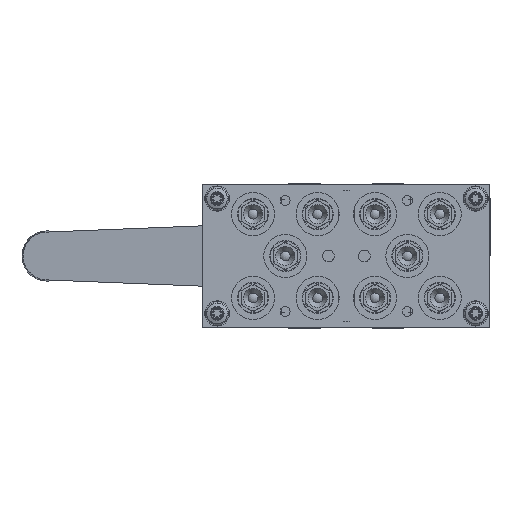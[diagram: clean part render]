
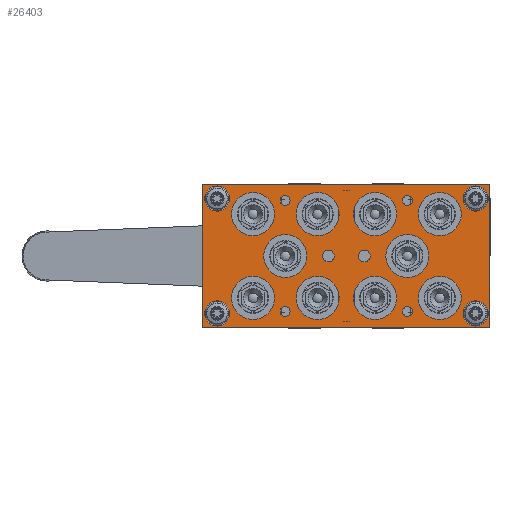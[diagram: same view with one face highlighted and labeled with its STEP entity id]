
A CAD part, left-side view. The second image highlights one B-rep face of the part: STEP entity #26403.
In plain terms, the highlighted planar face has unit normal (-1, 0, 0) as drawn and (0, 0, 1) by its records, which use the part's own axes.
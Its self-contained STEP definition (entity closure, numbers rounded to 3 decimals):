
#2514=LINE('',#63256,#3563);
#2518=LINE('',#63267,#3567);
#2522=LINE('',#63412,#3571);
#2523=LINE('',#63413,#3572);
#3563=VECTOR('',#32757,1000.);
#3567=VECTOR('',#32765,1000.);
#3571=VECTOR('',#32925,1000.);
#3572=VECTOR('',#32926,1000.);
#3991=PLANE('',#28291);
#9129=ORIENTED_EDGE('',*,*,#11919,.F.);
#9130=ORIENTED_EDGE('',*,*,#11920,.F.);
#9131=ORIENTED_EDGE('',*,*,#11921,.F.);
#9132=ORIENTED_EDGE('',*,*,#11922,.F.);
#9133=ORIENTED_EDGE('',*,*,#11923,.F.);
#9134=ORIENTED_EDGE('',*,*,#11924,.F.);
#9135=ORIENTED_EDGE('',*,*,#11925,.T.);
#9136=ORIENTED_EDGE('',*,*,#11926,.T.);
#9137=ORIENTED_EDGE('',*,*,#11927,.T.);
#9138=ORIENTED_EDGE('',*,*,#11928,.T.);
#9139=ORIENTED_EDGE('',*,*,#11929,.T.);
#9140=ORIENTED_EDGE('',*,*,#11930,.T.);
#9141=ORIENTED_EDGE('',*,*,#11931,.T.);
#9142=ORIENTED_EDGE('',*,*,#11861,.T.);
#9143=ORIENTED_EDGE('',*,*,#11932,.T.);
#9144=ORIENTED_EDGE('',*,*,#11866,.T.);
#9145=ORIENTED_EDGE('',*,*,#11933,.T.);
#9146=ORIENTED_EDGE('',*,*,#11934,.T.);
#9147=ORIENTED_EDGE('',*,*,#11935,.T.);
#9148=ORIENTED_EDGE('',*,*,#11936,.T.);
#9149=ORIENTED_EDGE('',*,*,#11937,.T.);
#9150=ORIENTED_EDGE('',*,*,#11938,.T.);
#9151=ORIENTED_EDGE('',*,*,#11939,.T.);
#9152=ORIENTED_EDGE('',*,*,#11940,.T.);
#11861=EDGE_CURVE('',#13574,#13573,#2514,.T.);
#11866=EDGE_CURVE('',#13579,#13578,#2518,.T.);
#11919=EDGE_CURVE('',#13629,#13629,#14463,.T.);
#11920=EDGE_CURVE('',#13630,#13630,#14464,.T.);
#11921=EDGE_CURVE('',#13631,#13631,#14465,.T.);
#11922=EDGE_CURVE('',#13632,#13632,#14466,.T.);
#11923=EDGE_CURVE('',#13633,#13633,#14467,.T.);
#11924=EDGE_CURVE('',#13634,#13634,#14468,.T.);
#11925=EDGE_CURVE('',#13635,#13635,#14469,.T.);
#11926=EDGE_CURVE('',#13636,#13636,#14470,.T.);
#11927=EDGE_CURVE('',#13637,#13637,#14471,.T.);
#11928=EDGE_CURVE('',#13638,#13638,#14472,.T.);
#11929=EDGE_CURVE('',#13639,#13639,#14473,.T.);
#11930=EDGE_CURVE('',#13640,#13640,#14474,.T.);
#11931=EDGE_CURVE('',#13641,#13641,#14475,.T.);
#11932=EDGE_CURVE('',#13573,#13579,#2522,.T.);
#11933=EDGE_CURVE('',#13578,#13574,#2523,.T.);
#11934=EDGE_CURVE('',#13642,#13642,#14476,.T.);
#11935=EDGE_CURVE('',#13643,#13643,#14477,.T.);
#11936=EDGE_CURVE('',#13644,#13644,#14478,.T.);
#11937=EDGE_CURVE('',#13645,#13645,#14479,.T.);
#11938=EDGE_CURVE('',#13646,#13646,#14480,.T.);
#11939=EDGE_CURVE('',#13647,#13647,#14481,.T.);
#11940=EDGE_CURVE('',#13648,#13648,#14482,.T.);
#13573=VERTEX_POINT('',#63255);
#13574=VERTEX_POINT('',#63257);
#13578=VERTEX_POINT('',#63266);
#13579=VERTEX_POINT('',#63268);
#13629=VERTEX_POINT('',#63387);
#13630=VERTEX_POINT('',#63389);
#13631=VERTEX_POINT('',#63391);
#13632=VERTEX_POINT('',#63393);
#13633=VERTEX_POINT('',#63395);
#13634=VERTEX_POINT('',#63397);
#13635=VERTEX_POINT('',#63399);
#13636=VERTEX_POINT('',#63401);
#13637=VERTEX_POINT('',#63403);
#13638=VERTEX_POINT('',#63405);
#13639=VERTEX_POINT('',#63407);
#13640=VERTEX_POINT('',#63409);
#13641=VERTEX_POINT('',#63411);
#13642=VERTEX_POINT('',#63415);
#13643=VERTEX_POINT('',#63417);
#13644=VERTEX_POINT('',#63419);
#13645=VERTEX_POINT('',#63421);
#13646=VERTEX_POINT('',#63423);
#13647=VERTEX_POINT('',#63425);
#13648=VERTEX_POINT('',#63427);
#14463=CIRCLE('',#28292,2.067);
#14464=CIRCLE('',#28293,2.067);
#14465=CIRCLE('',#28294,2.067);
#14466=CIRCLE('',#28295,2.067);
#14467=CIRCLE('',#28296,2.459);
#14468=CIRCLE('',#28297,2.459);
#14469=CIRCLE('',#28298,9.);
#14470=CIRCLE('',#28299,9.);
#14471=CIRCLE('',#28300,9.);
#14472=CIRCLE('',#28301,9.);
#14473=CIRCLE('',#28302,9.);
#14474=CIRCLE('',#28303,5.25);
#14475=CIRCLE('',#28304,5.25);
#14476=CIRCLE('',#28305,5.25);
#14477=CIRCLE('',#28306,9.);
#14478=CIRCLE('',#28307,9.);
#14479=CIRCLE('',#28308,9.);
#14480=CIRCLE('',#28309,9.);
#14481=CIRCLE('',#28310,9.);
#14482=CIRCLE('',#28311,5.25);
#15879=EDGE_LOOP('',(#9129));
#15880=EDGE_LOOP('',(#9130));
#15881=EDGE_LOOP('',(#9131));
#15882=EDGE_LOOP('',(#9132));
#15883=EDGE_LOOP('',(#9133));
#15884=EDGE_LOOP('',(#9134));
#15885=EDGE_LOOP('',(#9135));
#15886=EDGE_LOOP('',(#9136));
#15887=EDGE_LOOP('',(#9137));
#15888=EDGE_LOOP('',(#9138));
#15889=EDGE_LOOP('',(#9139));
#15890=EDGE_LOOP('',(#9140));
#15891=EDGE_LOOP('',(#9141));
#15892=EDGE_LOOP('',(#9142,#9143,#9144,#9145));
#15893=EDGE_LOOP('',(#9146));
#15894=EDGE_LOOP('',(#9147));
#15895=EDGE_LOOP('',(#9148));
#15896=EDGE_LOOP('',(#9149));
#15897=EDGE_LOOP('',(#9150));
#15898=EDGE_LOOP('',(#9151));
#15899=EDGE_LOOP('',(#9152));
#17398=FACE_BOUND('',#15879,.T.);
#17399=FACE_BOUND('',#15880,.T.);
#17400=FACE_BOUND('',#15881,.T.);
#17401=FACE_BOUND('',#15882,.T.);
#17402=FACE_BOUND('',#15883,.T.);
#17403=FACE_BOUND('',#15884,.T.);
#17404=FACE_BOUND('',#15885,.T.);
#17405=FACE_BOUND('',#15886,.T.);
#17406=FACE_BOUND('',#15887,.T.);
#17407=FACE_BOUND('',#15888,.T.);
#17408=FACE_BOUND('',#15889,.T.);
#17409=FACE_BOUND('',#15890,.T.);
#17410=FACE_BOUND('',#15891,.T.);
#17411=FACE_BOUND('',#15892,.T.);
#17412=FACE_BOUND('',#15893,.T.);
#17413=FACE_BOUND('',#15894,.T.);
#17414=FACE_BOUND('',#15895,.T.);
#17415=FACE_BOUND('',#15896,.T.);
#17416=FACE_BOUND('',#15897,.T.);
#17417=FACE_BOUND('',#15898,.T.);
#17418=FACE_BOUND('',#15899,.T.);
#26403=ADVANCED_FACE('',(#17398,#17399,#17400,#17401,#17402,#17403,#17404,
#17405,#17406,#17407,#17408,#17409,#17410,#17411,#17412,#17413,#17414,#17415,
#17416,#17417,#17418),#3991,.T.);
#28291=AXIS2_PLACEMENT_3D('',#63385,#32897,#32898);
#28292=AXIS2_PLACEMENT_3D('',#63386,#32899,#32900);
#28293=AXIS2_PLACEMENT_3D('',#63388,#32901,#32902);
#28294=AXIS2_PLACEMENT_3D('',#63390,#32903,#32904);
#28295=AXIS2_PLACEMENT_3D('',#63392,#32905,#32906);
#28296=AXIS2_PLACEMENT_3D('',#63394,#32907,#32908);
#28297=AXIS2_PLACEMENT_3D('',#63396,#32909,#32910);
#28298=AXIS2_PLACEMENT_3D('',#63398,#32911,#32912);
#28299=AXIS2_PLACEMENT_3D('',#63400,#32913,#32914);
#28300=AXIS2_PLACEMENT_3D('',#63402,#32915,#32916);
#28301=AXIS2_PLACEMENT_3D('',#63404,#32917,#32918);
#28302=AXIS2_PLACEMENT_3D('',#63406,#32919,#32920);
#28303=AXIS2_PLACEMENT_3D('',#63408,#32921,#32922);
#28304=AXIS2_PLACEMENT_3D('',#63410,#32923,#32924);
#28305=AXIS2_PLACEMENT_3D('',#63414,#32927,#32928);
#28306=AXIS2_PLACEMENT_3D('',#63416,#32929,#32930);
#28307=AXIS2_PLACEMENT_3D('',#63418,#32931,#32932);
#28308=AXIS2_PLACEMENT_3D('',#63420,#32933,#32934);
#28309=AXIS2_PLACEMENT_3D('',#63422,#32935,#32936);
#28310=AXIS2_PLACEMENT_3D('',#63424,#32937,#32938);
#28311=AXIS2_PLACEMENT_3D('',#63426,#32939,#32940);
#32757=DIRECTION('',(-1.,0.,0.));
#32765=DIRECTION('',(1.,0.,0.));
#32897=DIRECTION('',(0.,0.,1.));
#32898=DIRECTION('',(1.,0.,0.));
#32899=DIRECTION('',(0.,0.,1.));
#32900=DIRECTION('',(1.,0.,0.));
#32901=DIRECTION('',(0.,0.,1.));
#32902=DIRECTION('',(1.,0.,0.));
#32903=DIRECTION('',(0.,0.,1.));
#32904=DIRECTION('',(1.,0.,0.));
#32905=DIRECTION('',(0.,0.,1.));
#32906=DIRECTION('',(1.,0.,0.));
#32907=DIRECTION('',(0.,0.,1.));
#32908=DIRECTION('',(1.,0.,0.));
#32909=DIRECTION('',(0.,0.,1.));
#32910=DIRECTION('',(1.,0.,0.));
#32911=DIRECTION('',(0.,0.,-1.));
#32912=DIRECTION('',(1.,0.,0.));
#32913=DIRECTION('',(0.,0.,-1.));
#32914=DIRECTION('',(1.,0.,0.));
#32915=DIRECTION('',(0.,0.,-1.));
#32916=DIRECTION('',(1.,0.,0.));
#32917=DIRECTION('',(0.,0.,-1.));
#32918=DIRECTION('',(1.,0.,0.));
#32919=DIRECTION('',(0.,0.,-1.));
#32920=DIRECTION('',(1.,0.,0.));
#32921=DIRECTION('',(0.,0.,-1.));
#32922=DIRECTION('',(1.,0.,0.));
#32923=DIRECTION('',(0.,0.,-1.));
#32924=DIRECTION('',(1.,0.,0.));
#32925=DIRECTION('',(0.,-1.,0.));
#32926=DIRECTION('',(0.,1.,0.));
#32927=DIRECTION('',(0.,0.,-1.));
#32928=DIRECTION('',(1.,0.,0.));
#32929=DIRECTION('',(0.,0.,-1.));
#32930=DIRECTION('',(1.,0.,0.));
#32931=DIRECTION('',(0.,0.,-1.));
#32932=DIRECTION('',(1.,0.,0.));
#32933=DIRECTION('',(0.,0.,-1.));
#32934=DIRECTION('',(1.,0.,0.));
#32935=DIRECTION('',(0.,0.,-1.));
#32936=DIRECTION('',(1.,0.,0.));
#32937=DIRECTION('',(0.,0.,-1.));
#32938=DIRECTION('',(1.,0.,0.));
#32939=DIRECTION('',(0.,0.,-1.));
#32940=DIRECTION('',(1.,0.,0.));
#63255=CARTESIAN_POINT('',(-60.,30.,15.));
#63256=CARTESIAN_POINT('',(60.,30.,15.));
#63257=CARTESIAN_POINT('',(60.,30.,15.));
#63266=CARTESIAN_POINT('',(60.,-30.,15.));
#63267=CARTESIAN_POINT('',(-60.,-30.,15.));
#63268=CARTESIAN_POINT('',(-60.,-30.,15.));
#63385=CARTESIAN_POINT('',(-60.,30.,15.));
#63386=CARTESIAN_POINT('',(25.6,23.2,15.));
#63387=CARTESIAN_POINT('',(27.667,23.2,15.));
#63388=CARTESIAN_POINT('',(-25.6,23.2,15.));
#63389=CARTESIAN_POINT('',(-23.533,23.2,15.));
#63390=CARTESIAN_POINT('',(-25.6,-23.2,15.));
#63391=CARTESIAN_POINT('',(-23.533,-23.2,15.));
#63392=CARTESIAN_POINT('',(25.6,-23.2,15.));
#63393=CARTESIAN_POINT('',(27.667,-23.2,15.));
#63394=CARTESIAN_POINT('',(7.5,0.,15.));
#63395=CARTESIAN_POINT('',(9.959,0.,15.));
#63396=CARTESIAN_POINT('',(-7.5,0.,15.));
#63397=CARTESIAN_POINT('',(-5.041,0.,15.));
#63398=CARTESIAN_POINT('',(25.5,0.,15.));
#63399=CARTESIAN_POINT('',(34.5,0.,15.));
#63400=CARTESIAN_POINT('',(39.,17.5,15.));
#63401=CARTESIAN_POINT('',(48.,17.5,15.));
#63402=CARTESIAN_POINT('',(-39.,-17.5,15.));
#63403=CARTESIAN_POINT('',(-30.,-17.5,15.));
#63404=CARTESIAN_POINT('',(-12.,-17.5,15.));
#63405=CARTESIAN_POINT('',(-3.,-17.5,15.));
#63406=CARTESIAN_POINT('',(12.,17.5,15.));
#63407=CARTESIAN_POINT('',(21.,17.5,15.));
#63408=CARTESIAN_POINT('',(-54.,-24.,15.));
#63409=CARTESIAN_POINT('',(-48.75,-24.,15.));
#63410=CARTESIAN_POINT('',(54.,24.,15.));
#63411=CARTESIAN_POINT('',(59.25,24.,15.));
#63412=CARTESIAN_POINT('',(-60.,30.,15.));
#63413=CARTESIAN_POINT('',(60.,-30.,15.));
#63414=CARTESIAN_POINT('',(54.,-24.,15.));
#63415=CARTESIAN_POINT('',(59.25,-24.,15.));
#63416=CARTESIAN_POINT('',(-12.,17.5,15.));
#63417=CARTESIAN_POINT('',(-3.,17.5,15.));
#63418=CARTESIAN_POINT('',(12.,-17.5,15.));
#63419=CARTESIAN_POINT('',(21.,-17.5,15.));
#63420=CARTESIAN_POINT('',(-39.,17.5,15.));
#63421=CARTESIAN_POINT('',(-30.,17.5,15.));
#63422=CARTESIAN_POINT('',(39.,-17.5,15.));
#63423=CARTESIAN_POINT('',(48.,-17.5,15.));
#63424=CARTESIAN_POINT('',(-25.5,0.,15.));
#63425=CARTESIAN_POINT('',(-16.5,0.,15.));
#63426=CARTESIAN_POINT('',(-54.,24.,15.));
#63427=CARTESIAN_POINT('',(-48.75,24.,15.));
